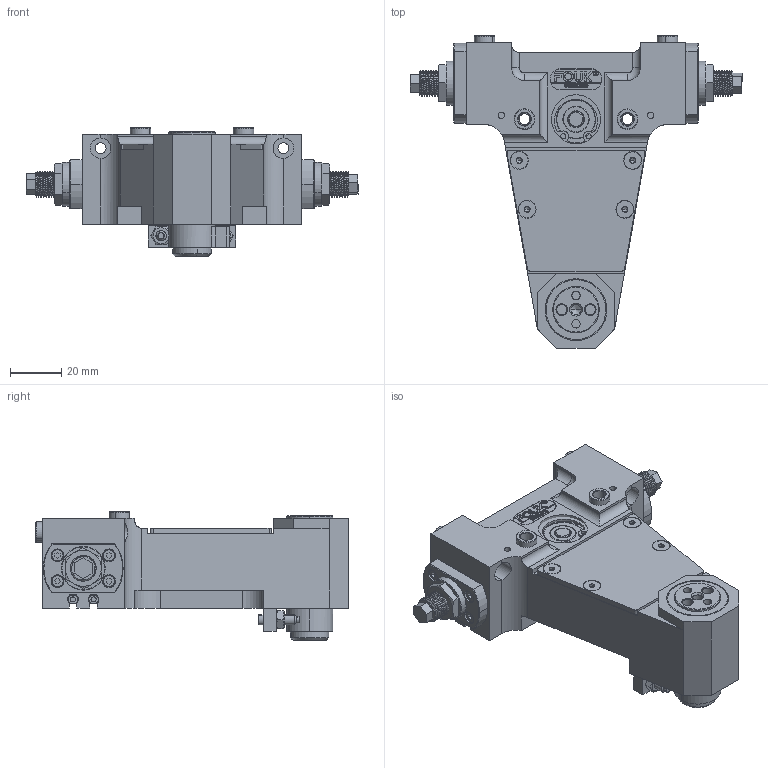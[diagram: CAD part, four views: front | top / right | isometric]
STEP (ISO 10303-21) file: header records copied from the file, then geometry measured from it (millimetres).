
FILE_DESCRIPTION (( 'STEP AP203' ), '1' );
FILE_NAME ('GS16-180¡ã.STEP', '2026-05-08T03:14:54', ( 'USER-' ), ( 'Microsoft' ), 'SwSTEP 2.0', 'SolidWorks 2018', '' );
FILE_SCHEMA (( 'CONFIG_CONTROL_DESIGN' ));
Length unit declared in the file: millimetre
Products named in the file (22): GB_FASTENER_NUT_SSFNTT M10X1.0-N; ﾏ擎ﾗ8｡ﾁ5｡ﾁ5; GS16-06 第一齿轮轴14×1; 1010遣喳ん; hex nuts, style 1-grades ab gb(GB_FASTENER_NUT_SNAB1 M4-C); GS16-10 180｡耨ｲﾏﾞﾎｻ; 内六角沉头螺钉[GBT70_3-2008][M3×8×6]_M3×8×6; GS16-05 耜啣菜え; 内六角平端紧定螺钉[GBT77-2000][M5×5]_M5×5; GB╱T 276-2013[两面带密封圈（接触式）的深沟球轴承[60000-2RS]626-2RS]; 内六角圆柱头螺钉[GBT70_1-2008][M2.5×8]_M2.5×8; GS16-01 褲极; GB╱T 79-2007[内六角圆柱端紧定螺钉M4×16]; 棠羲換覜ん; GS16-08 第二齿轮轴14×1; GS16-02 遣喳ん裔啣; GS16-180∼; GS16-11 茞癹弇傷裔; GB╱T 290-2017[一面带密封圈的开口型滚针轴承 HK 0000-RS型HK1814-RS]; GS16-04 葡裔唳; 20x8-R4; GB_CONNECTING_PIECE_RING_RRH 19
Assembly tree (41 placements, depth 2):
  GS16-180∼
    GS16-01 褲极
    GS16-02 遣喳ん裔啣  x2
    GB╱T 276-2013[两面带密封圈（接触式）的深沟球轴承[60000-2RS]626-2RS]
    GS16-06 第一齿轮轴14×1
    GB_CONNECTING_PIECE_RING_RRH 19
    1010遣喳ん  x2
    GS16-08 第二齿轮轴14×1
    GB╱T 290-2017[一面带密封圈的开口型滚针轴承 HK 0000-RS型HK1814-RS]
    GS16-05 耜啣菜え  x2
    GB_FASTENER_NUT_SSFNTT M10X1.0-N  x2
    GB╱T 79-2007[内六角圆柱端紧定螺钉M4×16]  x2
    hex nuts, style 1-grades ab gb(GB_FASTENER_NUT_SNAB1 M4-C)  x2
    GS16-04 葡裔唳
    GS16-10 180｡耨ｲﾏﾞﾎｻ
    GS16-11 茞癹弇傷裔
    20x8-R4
    棠羲換覜ん  x2
    内六角沉头螺钉[GBT70_3-2008][M3×8×6]_M3×8×6  x4
    内六角圆柱头螺钉[GBT70_1-2008][M2.5×8]_M2.5×8  x8
    ﾏ擎ﾗ8｡ﾁ5｡ﾁ5  x4
    内六角平端紧定螺钉[GBT77-2000][M5×5]_M5×5
Bounding box: 129 x 121.5 x 50 mm (x, y, z)
Volume: 184379.5 mm3; surface area: 65431.2 mm2
Topology: 52 solids, 52 shells, 1762 faces, 4319 edges, 2715 vertices
Faces by surface type: plane 646, cylinder 588, cone 240, bspline 232, torus 56
Entity records: 55133 total; most frequent: CARTESIAN_POINT 23241, ORIENTED_EDGE 6266, DIRECTION 5511, EDGE_CURVE 3133, VERTEX_POINT 2035, AXIS2_PLACEMENT_3D 1962, VECTOR 1587, LINE 1587
